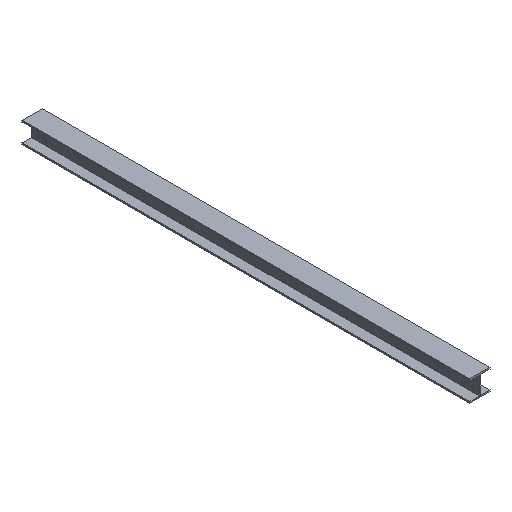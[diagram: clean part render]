
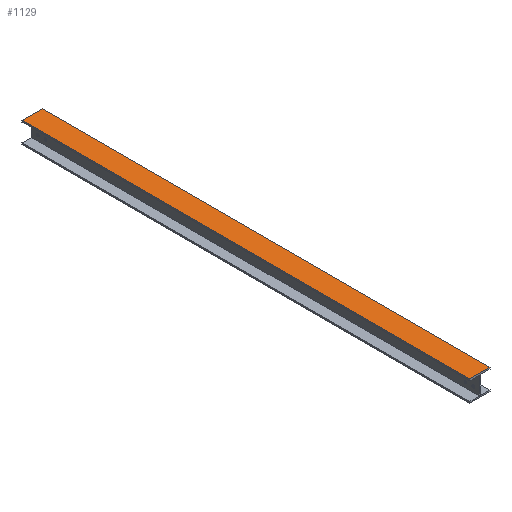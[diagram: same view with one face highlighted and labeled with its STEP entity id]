
A CAD part, isometric view. The second image highlights one B-rep face of the part: STEP entity #1129.
In plain terms, the highlighted planar face has unit normal (0, 0, 1).
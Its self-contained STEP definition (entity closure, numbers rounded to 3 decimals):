
#72 = PLANE('',#73);
#73 = AXIS2_PLACEMENT_3D('',#74,#75,#76);
#74 = CARTESIAN_POINT('',(1822.,1715.,2307.));
#75 = DIRECTION('',(0.,1.,0.));
#76 = DIRECTION('',(0.,-0.,1.));
#126 = PLANE('',#127);
#127 = AXIS2_PLACEMENT_3D('',#128,#129,#130);
#128 = CARTESIAN_POINT('',(1822.,-1715.,2307.));
#129 = DIRECTION('',(0.,1.,0.));
#130 = DIRECTION('',(0.,-0.,1.));
#375 = VERTEX_POINT('',#376);
#376 = CARTESIAN_POINT('',(1745.,-1715.,2388.));
#390 = PLANE('',#391);
#391 = AXIS2_PLACEMENT_3D('',#392,#393,#394);
#392 = CARTESIAN_POINT('',(1745.,-1715.,2376.4));
#393 = DIRECTION('',(1.,0.,0.));
#394 = DIRECTION('',(0.,0.,1.));
#402 = EDGE_CURVE('',#375,#403,#405,.T.);
#403 = VERTEX_POINT('',#404);
#404 = CARTESIAN_POINT('',(1899.,-1715.,2388.));
#405 = SURFACE_CURVE('',#406,(#410,#417),.PCURVE_S1.);
#406 = LINE('',#407,#408);
#407 = CARTESIAN_POINT('',(1745.,-1715.,2388.));
#408 = VECTOR('',#409,1.);
#409 = DIRECTION('',(1.,0.,0.));
#410 = PCURVE('',#126,#411);
#411 = DEFINITIONAL_REPRESENTATION('',(#412),#416);
#412 = LINE('',#413,#414);
#413 = CARTESIAN_POINT('',(81.,-77.));
#414 = VECTOR('',#415,1.);
#415 = DIRECTION('',(0.,1.));
#416 = ( GEOMETRIC_REPRESENTATION_CONTEXT(2) 
PARAMETRIC_REPRESENTATION_CONTEXT() REPRESENTATION_CONTEXT('2D SPACE',''
  ) );
#417 = PCURVE('',#418,#423);
#418 = PLANE('',#419);
#419 = AXIS2_PLACEMENT_3D('',#420,#421,#422);
#420 = CARTESIAN_POINT('',(1745.,-1715.,2388.));
#421 = DIRECTION('',(0.,0.,-1.));
#422 = DIRECTION('',(1.,0.,0.));
#423 = DEFINITIONAL_REPRESENTATION('',(#424),#428);
#424 = LINE('',#425,#426);
#425 = CARTESIAN_POINT('',(0.,0.));
#426 = VECTOR('',#427,1.);
#427 = DIRECTION('',(1.,0.));
#428 = ( GEOMETRIC_REPRESENTATION_CONTEXT(2) 
PARAMETRIC_REPRESENTATION_CONTEXT() REPRESENTATION_CONTEXT('2D SPACE',''
  ) );
#446 = PLANE('',#447);
#447 = AXIS2_PLACEMENT_3D('',#448,#449,#450);
#448 = CARTESIAN_POINT('',(1899.,-1715.,2388.));
#449 = DIRECTION('',(-1.,0.,0.));
#450 = DIRECTION('',(0.,0.,-1.));
#611 = VERTEX_POINT('',#612);
#612 = CARTESIAN_POINT('',(1745.,1715.,2388.));
#633 = EDGE_CURVE('',#611,#634,#636,.T.);
#634 = VERTEX_POINT('',#635);
#635 = CARTESIAN_POINT('',(1899.,1715.,2388.));
#636 = SURFACE_CURVE('',#637,(#641,#648),.PCURVE_S1.);
#637 = LINE('',#638,#639);
#638 = CARTESIAN_POINT('',(1745.,1715.,2388.));
#639 = VECTOR('',#640,1.);
#640 = DIRECTION('',(1.,0.,0.));
#641 = PCURVE('',#72,#642);
#642 = DEFINITIONAL_REPRESENTATION('',(#643),#647);
#643 = LINE('',#644,#645);
#644 = CARTESIAN_POINT('',(81.,-77.));
#645 = VECTOR('',#646,1.);
#646 = DIRECTION('',(0.,1.));
#647 = ( GEOMETRIC_REPRESENTATION_CONTEXT(2) 
PARAMETRIC_REPRESENTATION_CONTEXT() REPRESENTATION_CONTEXT('2D SPACE',''
  ) );
#648 = PCURVE('',#418,#649);
#649 = DEFINITIONAL_REPRESENTATION('',(#650),#654);
#650 = LINE('',#651,#652);
#651 = CARTESIAN_POINT('',(0.,-3430.));
#652 = VECTOR('',#653,1.);
#653 = DIRECTION('',(1.,0.));
#654 = ( GEOMETRIC_REPRESENTATION_CONTEXT(2) 
PARAMETRIC_REPRESENTATION_CONTEXT() REPRESENTATION_CONTEXT('2D SPACE',''
  ) );
#1108 = EDGE_CURVE('',#375,#611,#1109,.T.);
#1109 = SURFACE_CURVE('',#1110,(#1114,#1121),.PCURVE_S1.);
#1110 = LINE('',#1111,#1112);
#1111 = CARTESIAN_POINT('',(1745.,-1715.,2388.));
#1112 = VECTOR('',#1113,1.);
#1113 = DIRECTION('',(0.,1.,0.));
#1114 = PCURVE('',#390,#1115);
#1115 = DEFINITIONAL_REPRESENTATION('',(#1116),#1120);
#1116 = LINE('',#1117,#1118);
#1117 = CARTESIAN_POINT('',(11.6,0.));
#1118 = VECTOR('',#1119,1.);
#1119 = DIRECTION('',(0.,-1.));
#1120 = ( GEOMETRIC_REPRESENTATION_CONTEXT(2) 
PARAMETRIC_REPRESENTATION_CONTEXT() REPRESENTATION_CONTEXT('2D SPACE',''
  ) );
#1121 = PCURVE('',#418,#1122);
#1122 = DEFINITIONAL_REPRESENTATION('',(#1123),#1127);
#1123 = LINE('',#1124,#1125);
#1124 = CARTESIAN_POINT('',(0.,0.));
#1125 = VECTOR('',#1126,1.);
#1126 = DIRECTION('',(0.,-1.));
#1127 = ( GEOMETRIC_REPRESENTATION_CONTEXT(2) 
PARAMETRIC_REPRESENTATION_CONTEXT() REPRESENTATION_CONTEXT('2D SPACE',''
  ) );
#1129 = ADVANCED_FACE('',(#1130),#418,.F.);
#1130 = FACE_BOUND('',#1131,.F.);
#1131 = EDGE_LOOP('',(#1132,#1133,#1134,#1155));
#1132 = ORIENTED_EDGE('',*,*,#1108,.T.);
#1133 = ORIENTED_EDGE('',*,*,#633,.T.);
#1134 = ORIENTED_EDGE('',*,*,#1135,.F.);
#1135 = EDGE_CURVE('',#403,#634,#1136,.T.);
#1136 = SURFACE_CURVE('',#1137,(#1141,#1148),.PCURVE_S1.);
#1137 = LINE('',#1138,#1139);
#1138 = CARTESIAN_POINT('',(1899.,-1715.,2388.));
#1139 = VECTOR('',#1140,1.);
#1140 = DIRECTION('',(0.,1.,0.));
#1141 = PCURVE('',#418,#1142);
#1142 = DEFINITIONAL_REPRESENTATION('',(#1143),#1147);
#1143 = LINE('',#1144,#1145);
#1144 = CARTESIAN_POINT('',(154.,0.));
#1145 = VECTOR('',#1146,1.);
#1146 = DIRECTION('',(0.,-1.));
#1147 = ( GEOMETRIC_REPRESENTATION_CONTEXT(2) 
PARAMETRIC_REPRESENTATION_CONTEXT() REPRESENTATION_CONTEXT('2D SPACE',''
  ) );
#1148 = PCURVE('',#446,#1149);
#1149 = DEFINITIONAL_REPRESENTATION('',(#1150),#1154);
#1150 = LINE('',#1151,#1152);
#1151 = CARTESIAN_POINT('',(0.,-0.));
#1152 = VECTOR('',#1153,1.);
#1153 = DIRECTION('',(0.,-1.));
#1154 = ( GEOMETRIC_REPRESENTATION_CONTEXT(2) 
PARAMETRIC_REPRESENTATION_CONTEXT() REPRESENTATION_CONTEXT('2D SPACE',''
  ) );
#1155 = ORIENTED_EDGE('',*,*,#402,.F.);
